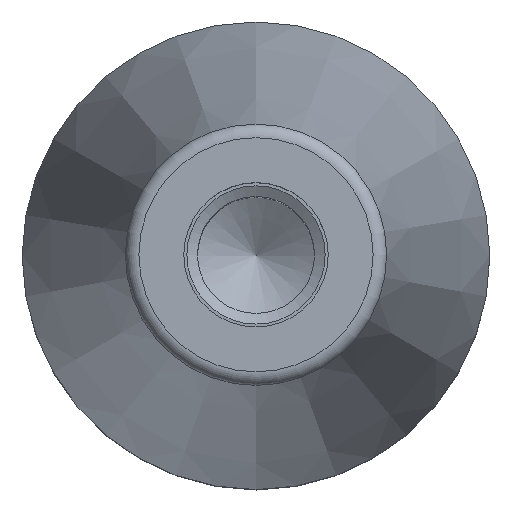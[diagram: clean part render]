
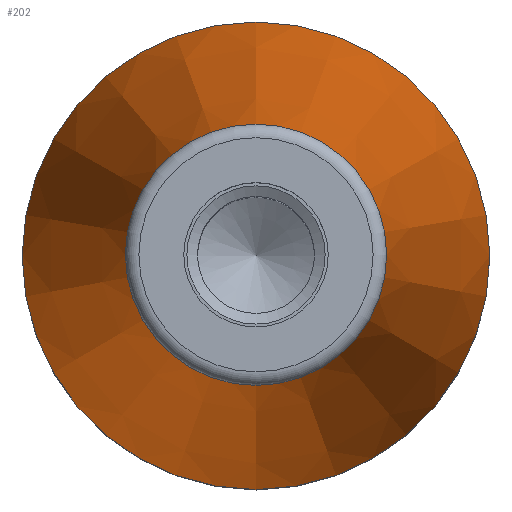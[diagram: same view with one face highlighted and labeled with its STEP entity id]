
A CAD part, top view. The second image highlights one B-rep face of the part: STEP entity #202.
In plain terms, the highlighted conical face has half-angle 10.084 degrees and reference radius 17 mm.
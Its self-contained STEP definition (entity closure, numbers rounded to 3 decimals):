
#12 = FACE_BOUND ( 'NONE', #57, .T. ) ;
#24 = AXIS2_PLACEMENT_3D ( 'NONE', #26, #112, #209 ) ;
#26 = CARTESIAN_POINT ( 'NONE',  ( 0., 0., -0.825 ) ) ;
#48 = CARTESIAN_POINT ( 'NONE',  ( 0., 0., -43. ) ) ;
#57 = EDGE_LOOP ( 'NONE', ( #104 ) ) ;
#71 = DIRECTION ( 'NONE',  ( 0., 1., 0. ) ) ;
#74 = CARTESIAN_POINT ( 'NONE',  ( 0., -17., -43. ) ) ;
#94 = FACE_OUTER_BOUND ( 'NONE', #176, .T. ) ;
#104 = ORIENTED_EDGE ( 'NONE', *, *, #131, .F. ) ;
#106 = CONICAL_SURFACE ( 'NONE', #265, 17., 0.176 ) ;
#110 = CIRCLE ( 'NONE', #268, 17. ) ;
#112 = DIRECTION ( 'NONE',  ( 0., 0., 1. ) ) ;
#129 = EDGE_CURVE ( 'NONE', #272, #272, #110, .T. ) ;
#131 = EDGE_CURVE ( 'NONE', #168, #168, #148, .T. ) ;
#134 = DIRECTION ( 'NONE',  ( 0., 0., 1. ) ) ;
#148 = CIRCLE ( 'NONE', #24, 9.5 ) ;
#168 = VERTEX_POINT ( 'NONE', #253 ) ;
#176 = EDGE_LOOP ( 'NONE', ( #200 ) ) ;
#188 = CARTESIAN_POINT ( 'NONE',  ( 0., 0., -43. ) ) ;
#200 = ORIENTED_EDGE ( 'NONE', *, *, #129, .T. ) ;
#202 = ADVANCED_FACE ( 'NONE', ( #12, #94 ), #106, .T. ) ;
#209 = DIRECTION ( 'NONE',  ( 0., -1., 0. ) ) ;
#228 = DIRECTION ( 'NONE',  ( 0., -1., 0. ) ) ;
#253 = CARTESIAN_POINT ( 'NONE',  ( 0., -9.5, -0.825 ) ) ;
#265 = AXIS2_PLACEMENT_3D ( 'NONE', #188, #269, #71 ) ;
#268 = AXIS2_PLACEMENT_3D ( 'NONE', #48, #134, #228 ) ;
#269 = DIRECTION ( 'NONE',  ( 0., 0., -1. ) ) ;
#272 = VERTEX_POINT ( 'NONE', #74 ) ;
